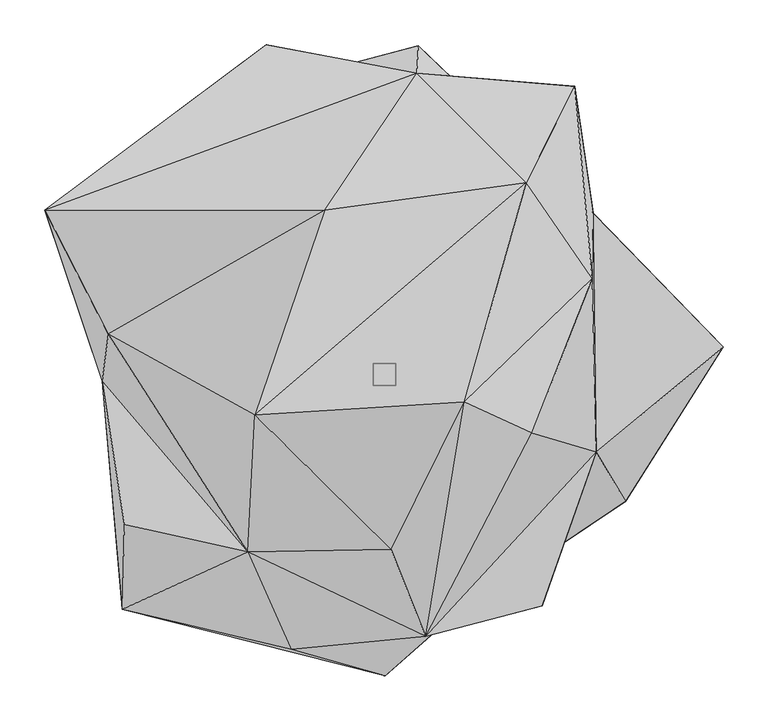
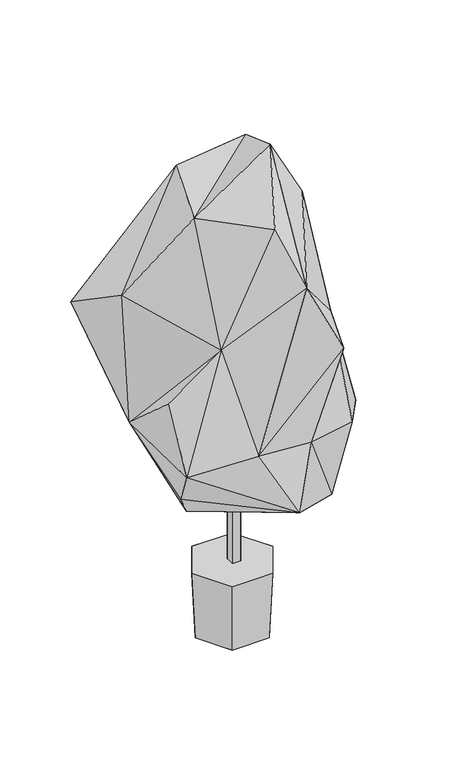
"""IFC4 building model written with IfcOpenShell, lengths in millimetres: geographic element geometry, Enscape AssetDefinition - Potted Plant 024 Fiddle-Leaf Fig : Enscape AssetDefinition - Potted Plant 024 Fiddle-Leaf Fig 3."""

from ifc_helpers import new_model, si_unit, origin, place, context, project, spatial, triangles, source, transform, mapped, element, save


def geographic_element_8a26e685(model_context):
    return source(origin(), model_context, "Body", "Tessellation", [
        triangles([(-8.8948212, -14.7755686, 171.5927602), (16.1806677, -14.7755686, 171.5927602), (16.1806677, -14.7755686, 500.9670233), (-8.8948212, 10.2985424, 500.9670233), (-8.8948212, 10.2985424, 171.5927602), (-8.8948212, -14.7755686, 500.9670233), (16.1806677, 10.2985424, 500.9670233), (16.1806677, 10.2985424, 171.5927602), (-73.9687636, 334.4146894, 656.1422173), (125.4601019, 154.5001625, 446.0690297), (41.6198297, 364.9425136, 792.3870987), (-188.115062, 190.6194331, 640.9823141), (-128.1835003, 365.967451, 913.7544725), (-181.3788634, -77.3671798, 470.0948524), (39.947489, 334.4146894, 1038.7958227), (-375.4959392, 181.4725532, 1038.7958227), (-62.681144, 181.4725532, 1358.5382973), (-304.6417793, 42.5758442, 1119.3864704), (-141.2219941, -47.9413915, 1358.5382973), (11.3771614, -197.6986703, 1359.3827225), (93.1690224, -33.2732711, 1500.0000114), (161.9113562, 212.1381051, 1358.5382973), (216.3534001, 319.4986304, 1131.5681396), (235.6748589, 105.0021391, 1198.6670237), (168.5373689, -67.7780668, 1346.6843697), (49.9787853, -295.1959532, 1221.6912724), (-100.3198577, -309.6367324, 755.8407829), (236.9518885, 177.6470963, 1044.617415), (240.5389878, -88.8875977, 958.8608763), (179.7988182, -261.0121204, 966.604081), (273.0477412, -143.9192313, 632.1907722), (74.3682577, -277.3539464, 719.0548016), (-288.7214756, -265.0676323, 726.091218), (4.6588641, -339.0694199, 559.1835643), (206.6954141, -153.8196626, 434.3888197), (382.1108697, 28.5303761, 559.1835643), (240.5389878, 28.5303761, 406.8915519), (-311.5529672, -9.5092068, 753.6449141), (-280.3129045, -219.4832055, 629.0802063), (-148.7420202, -200.8835595, 1038.7958227), (-286.5945342, -169.7069015, 901.2478231), (-54.8360152, 95.2298341, -0.07301), (-109.7188661, 0.1694383, -0.07301), (-54.8360152, -94.8909558, -0.07301), (-120.4086206, 0.1694383, 206.8180265), (54.9296868, 95.2298341, -0.07301), (-60.1809015, 104.4869453, 206.8180265), (-60.1809015, -104.148067, 206.8180265), (120.5022922, 0.1694383, 206.8180265), (60.2745776, -104.148067, 206.8180265), (54.9296868, -94.8909558, -0.07301), (60.2745776, 104.4869453, 206.8180265), (109.8125468, 0.1694383, -0.07301)], [[49, 52, 47], [47, 52, 46], [52, 49, 53], [53, 46, 52], [51, 53, 49], [49, 50, 51], [50, 49, 48], [49, 47, 48], [47, 45, 48], [45, 47, 42], [46, 42, 47], [42, 46, 53], [48, 45, 43], [42, 43, 45], [50, 48, 44], [44, 51, 50], [43, 44, 48], [51, 44, 53], [44, 42, 53], [44, 43, 42], [40, 41, 33], [38, 33, 41], [40, 38, 41], [38, 14, 39], [33, 38, 39], [39, 14, 34], [14, 10, 34], [34, 33, 39], [37, 34, 10], [34, 37, 35], [10, 36, 37], [36, 35, 37], [31, 35, 36], [35, 32, 34], [32, 35, 31], [32, 27, 34], [27, 40, 33], [27, 33, 34], [30, 27, 32], [31, 29, 32], [36, 29, 31], [29, 30, 32], [28, 29, 36], [28, 15, 23], [23, 24, 28], [28, 24, 29], [24, 25, 29], [27, 30, 26], [40, 27, 26], [29, 26, 30], [26, 29, 25], [20, 40, 26], [25, 21, 26], [24, 21, 25], [21, 20, 26], [22, 24, 23], [22, 21, 24], [22, 23, 15], [20, 21, 19], [19, 21, 22], [20, 19, 40], [19, 18, 40], [40, 18, 38], [18, 19, 17], [17, 22, 15], [19, 22, 17], [18, 16, 38], [16, 18, 17], [17, 15, 16], [16, 12, 38], [14, 12, 10], [38, 12, 14], [16, 15, 13], [16, 13, 12], [13, 15, 9], [12, 9, 10], [13, 9, 12], [28, 36, 11], [15, 28, 11], [11, 36, 10], [15, 11, 9], [11, 10, 9], [2, 8, 7], [8, 5, 4], [4, 7, 8], [5, 1, 6], [6, 4, 5], [7, 3, 2], [1, 2, 3], [3, 6, 1]], closed=False),
    ])


if __name__ == "__main__":
    model = new_model("IFC4")
    model_context = context("Model", 3, world=origin())
    ifc_project = project(units=[si_unit("LENGTHUNIT", "METRE", prefix="MILLI")], contexts=[model_context])
    site = spatial("IfcSite", under=ifc_project)
    building = spatial("IfcBuilding", under=site)
    placement = place(None, origin())
    geographic_element_shape = geographic_element_8a26e685(model_context)
    element("IfcGeographicElement", 1, ObjectType="Enscape AssetDefinition - Potted Plant 024 Fiddle-Leaf Fig : Enscape AssetDefinition - Potted Plant 024 Fiddle-Leaf Fig 3", at=placement, inside=building, context=model_context, shape_type="MappedRepresentation", body=[
        mapped(geographic_element_shape, transform((0.0, 0.0, 0.0), x_axis=(1.0, 0.0, 0.0), y_axis=(0.0, 1.0, 0.0), z_axis=(0.0, 0.0, 1.0))),
    ])
    save(model, "model.ifc")
